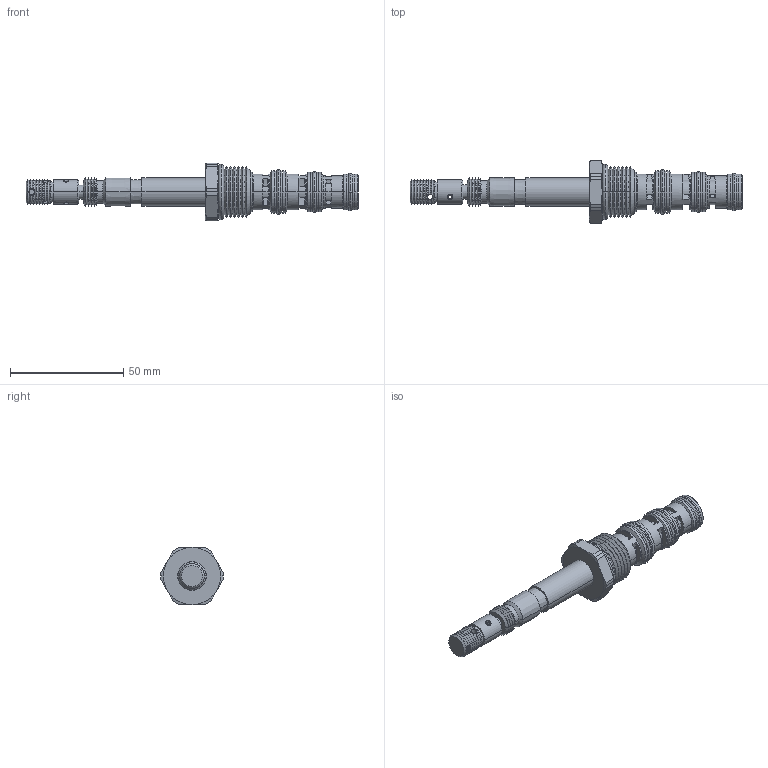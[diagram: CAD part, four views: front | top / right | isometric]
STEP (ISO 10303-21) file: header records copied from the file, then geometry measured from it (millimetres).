
FILE_DESCRIPTION((''),'2;1');
FILE_NAME('U:\Solid model CD\Solid model full\Solenoid\STEP\DGS4A0M-3D Full.stp','2008-06-23T08:29:44',('Dan'),(''),'Autodesk Inventor 9','Autodesk Inventor 9','');
FILE_SCHEMA(('AUTOMOTIVE_DESIGN { 1 0 10303 214 1 1 1 1 }'));
Length unit declared in the file: inch
Products named in the file (14): DGS4A0M-3D Full; DGS4A0M-3D Full1; DGS4A0M-3D Full2; DGS4A0M-3D Full3; DGS4A0M-3D Full4; DGS4A0M-3D Full5; DGS4A0M-3D Full6; DGS4A0M-3D Full7; DGS4A0M-3D Full8; DGS4A0M-3D Full9; DGS4A0M-3D Full10; DGS4A0M-3D Full11; DGS4A0M-3D Full12; DGS4A0M-3D Full13
Assembly tree (13 placements, depth 2):
  DGS4A0M-3D Full
    DGS4A0M-3D Full1
    DGS4A0M-3D Full2
    DGS4A0M-3D Full3
    DGS4A0M-3D Full4
    DGS4A0M-3D Full5
    DGS4A0M-3D Full6
    DGS4A0M-3D Full7
    DGS4A0M-3D Full8
    DGS4A0M-3D Full9
    DGS4A0M-3D Full10
    DGS4A0M-3D Full11
    DGS4A0M-3D Full12
    DGS4A0M-3D Full13
Bounding box: 146.81 x 27.76 x 25.4 mm (x, y, z)
Volume: 25682.6 mm3; surface area: 12580.2 mm2
Topology: 13 solids, 13 shells, 490 faces, 1119 edges, 665 vertices
Faces by surface type: cone 260, cylinder 114, plane 60, torus 52, bspline 4
Entity records: 15193 total; most frequent: CARTESIAN_POINT 3707, DIRECTION 2546, ORIENTED_EDGE 2238, EDGE_CURVE 1119, AXIS2_PLACEMENT_3D 1096, VERTEX_POINT 665, CIRCLE 583, EDGE_LOOP 526
